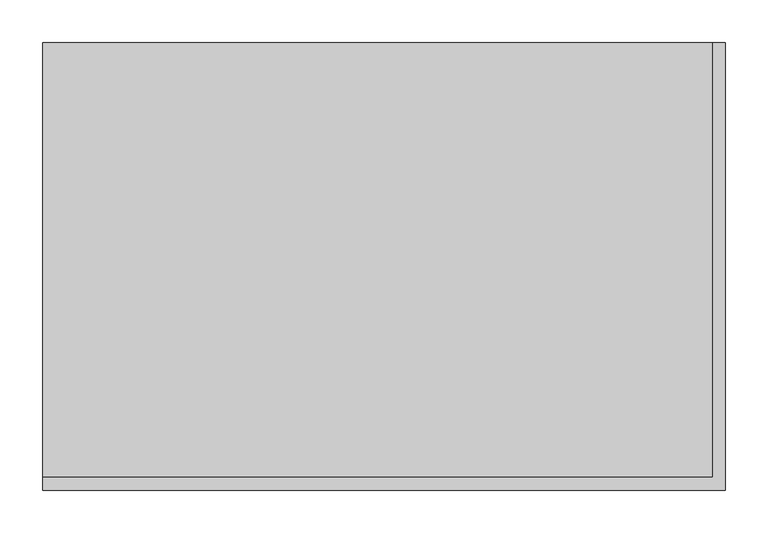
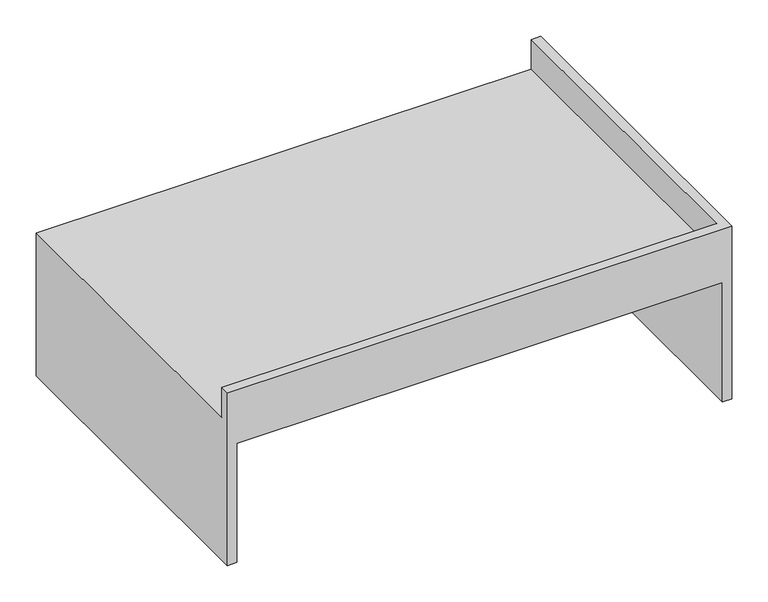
"""IFC4 building model written with IfcOpenShell, lengths in millimetres: furniture geometry, Mueble con faldon sin cajones - lavabo sobreponer : MB9-mueble baño colgado-80 cm."""

from ifc_helpers import new_model, si_unit, origin, place, context, project, spatial, faceted_brep, source, transform, mapped, element, save


def furniture_76cf8c88(model_context):
    return source(origin(), model_context, "Body", "Brep", [
        faceted_brep([(510.0, 85.0, 800.0), (510.0, 85.0, 750.0), (-275.0, 85.0, 750.0), (-275.0, 85.0, 800.0), (-275.0, 70.0, 800.0), (525.0, 70.0, 800.0), (525.0, 595.0, 800.0), (510.0, 595.0, 800.0), (-275.0, 595.0, 750.0), (-275.0, 595.0, 510.0), (-275.0, 70.0, 510.0), (-260.0, 70.0, 510.0), (-260.0, 70.0, 710.0), (510.0, 70.0, 710.0), (510.0, 70.0, 510.0), (525.0, 70.0, 510.0), (525.0, 595.0, 510.0), (510.0, 595.0, 750.0), (510.0, 580.0, 510.0), (-260.0, 580.0, 510.0), (-260.0, 580.0, 710.0), (510.0, 580.0, 710.0)], [[[0, 1, 2, 3]], [[0, 3, 4, 5, 6, 7]], [[3, 2, 8, 9, 10, 4]], [[5, 4, 10, 11, 12, 13, 14, 15]], [[7, 6, 16, 9, 8, 17]], [[1, 0, 7, 17]], [[16, 6, 5, 15]], [[11, 10, 9, 16, 15, 14, 18, 19]], [[12, 11, 19, 20]], [[19, 18, 21, 20]], [[18, 14, 13, 21]], [[8, 2, 1, 17]], [[13, 12, 20, 21]]]),
    ])


if __name__ == "__main__":
    model = new_model("IFC4")
    model_context = context("Model", 3, world=origin())
    ifc_project = project(units=[si_unit("LENGTHUNIT", "METRE", prefix="MILLI")], contexts=[model_context])
    site = spatial("IfcSite", under=ifc_project)
    building = spatial("IfcBuilding", under=site)
    placement = place(None, origin())
    furniture_shape = furniture_76cf8c88(model_context)
    element("IfcFurniture", 1, ObjectType="Mueble con faldon sin cajones - lavabo sobreponer : MB9-mueble baño colgado-80 cm", at=placement, inside=building, context=model_context, shape_type="MappedRepresentation", body=[
        mapped(furniture_shape, transform((0.0, 0.0, 0.0), x_axis=(1.0, 0.0, 0.0), y_axis=(0.0, 1.0, 0.0), z_axis=(0.0, 0.0, 1.0))),
    ])
    save(model, "model.ifc")
